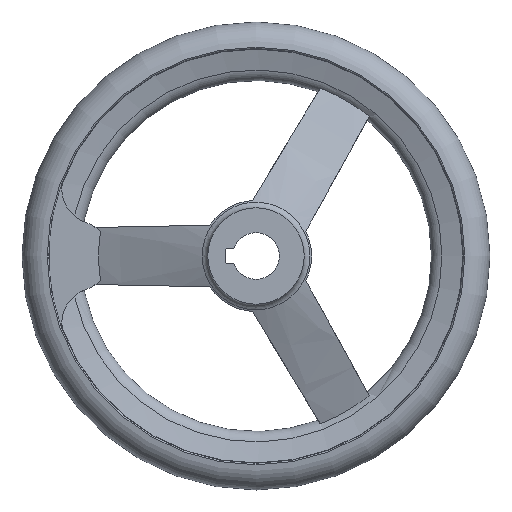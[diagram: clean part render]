
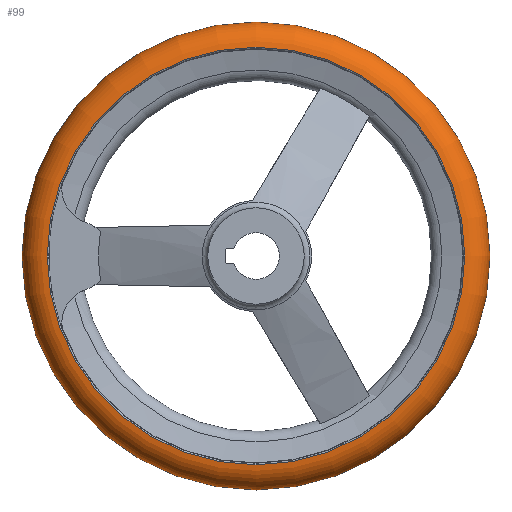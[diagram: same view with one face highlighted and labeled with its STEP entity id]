
A CAD part, left-side view. The second image highlights one B-rep face of the part: STEP entity #99.
In plain terms, the highlighted toroidal (fillet/blend) face has major radius 70.992 mm and minor radius 9.008 mm.
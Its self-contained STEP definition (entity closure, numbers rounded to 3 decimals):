
#99 = ADVANCED_FACE( '', ( #176, #177, #178 ), #179, .T. );
#176 = FACE_BOUND( '', #274, .T. );
#177 = FACE_OUTER_BOUND( '', #275, .T. );
#178 = FACE_OUTER_BOUND( '', #276, .T. );
#179 = TOROIDAL_SURFACE( '', #277, 70.992, 9.008 );
#274 = VERTEX_LOOP( '', #513 );
#275 = EDGE_LOOP( '', ( #514 ) );
#276 = EDGE_LOOP( '', ( #515 ) );
#277 = AXIS2_PLACEMENT_3D( '', #516, #517, #518 );
#513 = VERTEX_POINT( '', #716 );
#514 = ORIENTED_EDGE( '', *, *, #717, .T. );
#515 = ORIENTED_EDGE( '', *, *, #715, .F. );
#516 = CARTESIAN_POINT( '', ( 31., 0., 0. ) );
#517 = DIRECTION( '', ( -1., 0., 0. ) );
#518 = DIRECTION( '', ( 0., -1., 0. ) );
#715 = EDGE_CURVE( '', #881, #881, #882, .T. );
#716 = CARTESIAN_POINT( '', ( 31., -80., 0. ) );
#717 = EDGE_CURVE( '', #883, #883, #884, .T. );
#881 = VERTEX_POINT( '', #1438 );
#882 = CIRCLE( '', #1439, 71.375 );
#883 = VERTEX_POINT( '', #1440 );
#884 = CIRCLE( '', #1441, 71.375 );
#1438 = CARTESIAN_POINT( '', ( 22., -71.375, 0. ) );
#1439 = AXIS2_PLACEMENT_3D( '', #1581, #1582, #1583 );
#1440 = CARTESIAN_POINT( '', ( 40., -71.375, 0. ) );
#1441 = AXIS2_PLACEMENT_3D( '', #1584, #1585, #1586 );
#1581 = CARTESIAN_POINT( '', ( 22., 0., 0. ) );
#1582 = DIRECTION( '', ( -1., 0., 0. ) );
#1583 = DIRECTION( '', ( 0., -1., 0. ) );
#1584 = CARTESIAN_POINT( '', ( 40., 0., 0. ) );
#1585 = DIRECTION( '', ( -1., 0., 0. ) );
#1586 = DIRECTION( '', ( 0., -1., 0. ) );
